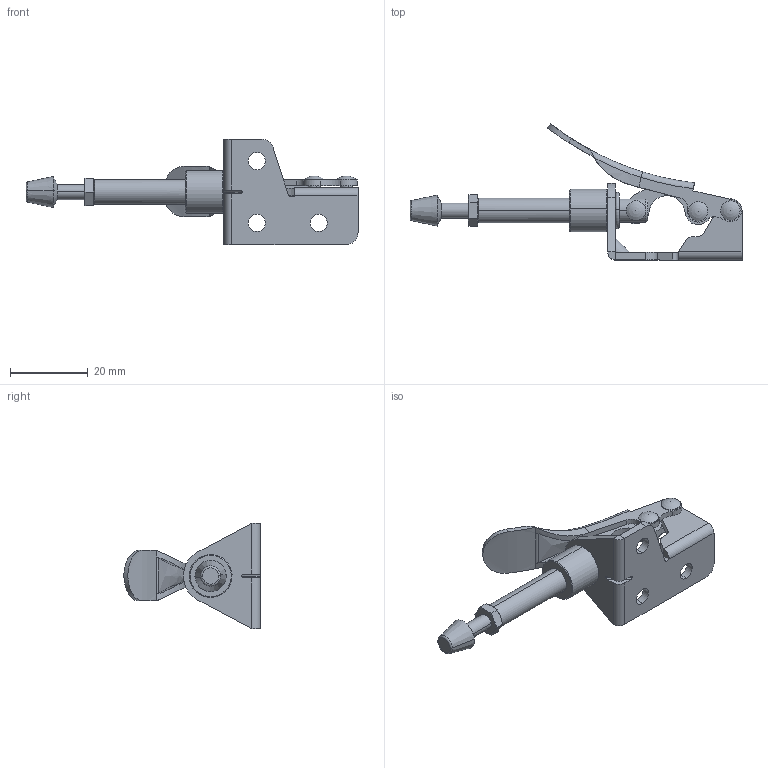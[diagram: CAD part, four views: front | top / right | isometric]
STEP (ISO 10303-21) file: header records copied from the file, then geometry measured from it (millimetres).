
FILE_DESCRIPTION (( 'STEP AP214' ), '1' );
FILE_NAME ('ISK-SL100.STEP', '2015-07-07T05:54:14', ( '' ), ( '' ), 'SwSTEP 2.0', 'SolidWorks 2015', '' );
FILE_SCHEMA (( 'AUTOMOTIVE_DESIGN' ));
Length unit declared in the file: millimetre
Products named in the file (10): hexagon nut_3_jis_JIS B 1181 Hexagon nut - Class 3 Finished M4 --N; Rubber bolt_M4×18; Revet_兂3亊6; Revet_兂3亊5; Link; Handle; Guide; Arm; Base; ISK-SL100
Assembly tree (10 placements, depth 2):
  ISK-SL100
    Base
    Arm
    Guide
    Handle
    Link
    Revet_兂3亊5  x2
    Revet_兂3亊6
    Rubber bolt_M4×18
    hexagon nut_3_jis_JIS B 1181 Hexagon nut - Class 3 Finished M4 --N
Bounding box: 85.24 x 34.98 x 27 mm (x, y, z)
Volume: 5505.5 mm3; surface area: 7296.8 mm2
Topology: 10 solids, 10 shells, 224 faces, 531 edges, 328 vertices
Faces by surface type: cylinder 93, plane 63, cone 39, torus 18, bspline 8, sphere 3
Entity records: 7408 total; most frequent: CARTESIAN_POINT 2053, DIRECTION 1079, ORIENTED_EDGE 996, EDGE_CURVE 498, AXIS2_PLACEMENT_3D 442, VERTEX_POINT 308, EDGE_LOOP 246, CIRCLE 225
